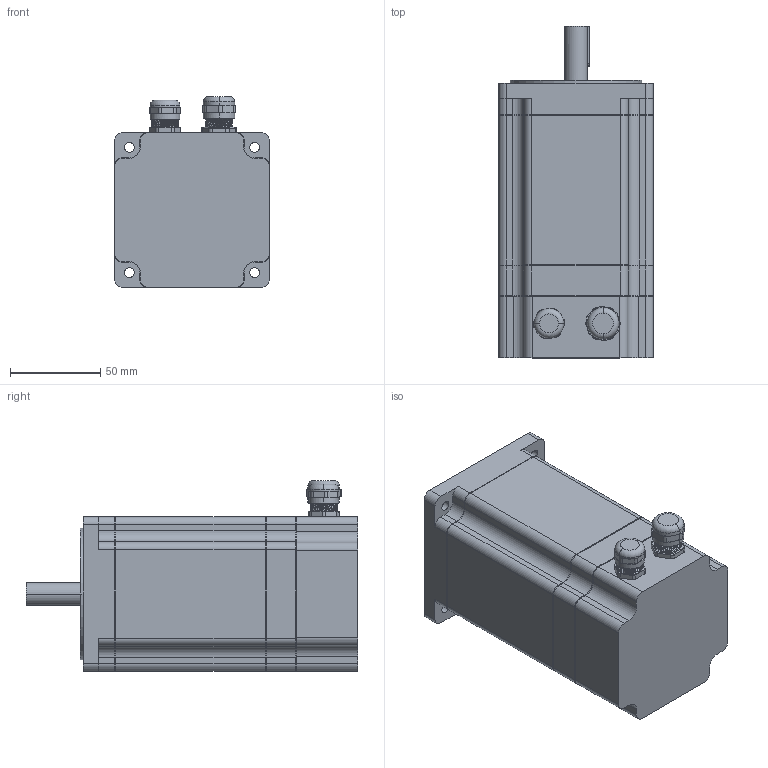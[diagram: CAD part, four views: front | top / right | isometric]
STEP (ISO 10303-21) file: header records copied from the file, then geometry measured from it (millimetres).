
FILE_DESCRIPTION((''),'2;1');
FILE_NAME('MT34HE38045G4G4_ASM','2024-04-24T16:50:33',('Edison'),(''),'CREO PARAMETRIC BY PTC INC, 2017260','CREO PARAMETRIC BY PTC INC, 2017260','');
FILE_SCHEMA(('CONFIG_CONTROL_DESIGN'));
Length unit declared in the file: millimetre
Products named in the file (20): NEMA34IPSTATOR_4_1_1_1_1_1_3_1_; 321_1_1; MT34HE31084E40_ASM_1_ASM_1_AS_2_ASM; NEMA34STANDIP65FRONTENDBELL_4_4; MT34HE50040E4VK_ASM_1_ASM_-39_1_ASM; MT34HE50040E4VK_ASM_1_ASM_-60_1_ASM; MT34HE47040E4M1_ASM_1_ASM_1_A_1_ASM; MT34HE38100M4K2_ASM_1_ASM_1_A_1_ASM; ASM0001_ASM_1_ASM_1_ASM_1_1_ASM_ASM; MT34HE38040M4V2_ASM_1_ASM_1_1_A_ASM; MT34HE47040E4M2_ASM_1_ASM_1_ASM_ASM; MT34HE47040E4M2_ASM_1_ASM_1_ASM; OSCP_1; DIAN_1; AW34TF45DK4003_ASM_1_ASM; RC; SF; CT-00014; CT-00015; MT34HE38045G4G4_ASM
Assembly tree (21 placements, depth 12):
  MT34HE38045G4G4_ASM
    AW34TF45DK4003_ASM_1_ASM
      MT34HE47040E4M2_ASM_1_ASM_1_ASM
        MT34HE47040E4M2_ASM_1_ASM_1_ASM_ASM
          MT34HE38040M4V2_ASM_1_ASM_1_1_A_ASM
            ASM0001_ASM_1_ASM_1_ASM_1_1_ASM_ASM
              MT34HE38100M4K2_ASM_1_ASM_1_A_1_ASM
                MT34HE47040E4M1_ASM_1_ASM_1_A_1_ASM
                  MT34HE50040E4VK_ASM_1_ASM_-60_1_ASM
      OSCP_1
      DIAN_1  x3
    RC
    SF
    CT-00014
    CT-00015
Bounding box: 86 x 184.25 x 106 mm (x, y, z)
Volume: 915957.6 mm3; surface area: 137254.3 mm2
Topology: 11 solids, 12 shells, 708 faces, 1668 edges, 1089 vertices
Faces by surface type: cylinder 378, plane 306, torus 12, bspline 12
Entity records: 22380 total; most frequent: CARTESIAN_POINT 6447, DIRECTION 3566, ORIENTED_EDGE 3024, EDGE_CURVE 1512, AXIS2_PLACEMENT_3D 1432, VERTEX_POINT 985, EDGE_LOOP 773, CIRCLE 735
